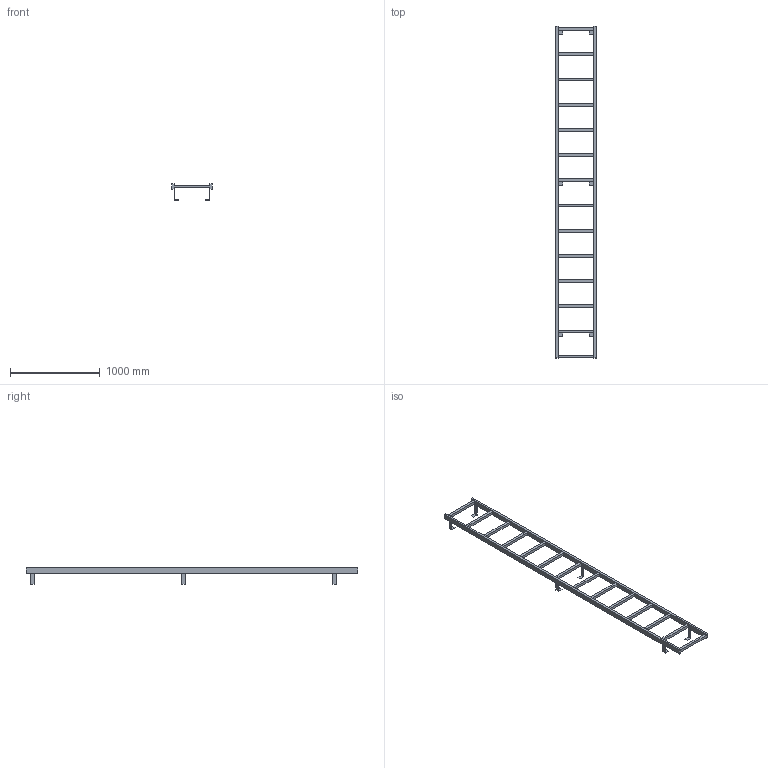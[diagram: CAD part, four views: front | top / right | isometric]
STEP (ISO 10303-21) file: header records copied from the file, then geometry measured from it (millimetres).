
FILE_DESCRIPTION((''),'2;1');
FILE_NAME('017_000109','2017-06-19T',('set'),('HUBER SE'),'PRO/ENGINEER BY PARAMETRIC TECHNOLOGY CORPORATION, 2015280','PRO/ENGINEER BY PARAMETRIC TECHNOLOGY CORPORATION, 2015280','');
FILE_SCHEMA(('CONFIG_CONTROL_DESIGN'));
Length unit declared in the file: millimetre
Products named in the file (1): 017_000109
Bounding box: 450 x 3690 x 178.5 mm (x, y, z)
Volume: 15653940 mm3; surface area: 1952052 mm2
Topology: 1 solids, 1 shells, 114 faces, 437 edges, 319 vertices
Faces by surface type: plane 114
Entity records: 4466 total; most frequent: CARTESIAN_POINT 925, ORIENTED_EDGE 672, DIRECTION 648, VECTOR 390, LINE 390, EDGE_CURVE 336, VERTEX_POINT 218, EDGE_LOOP 134
